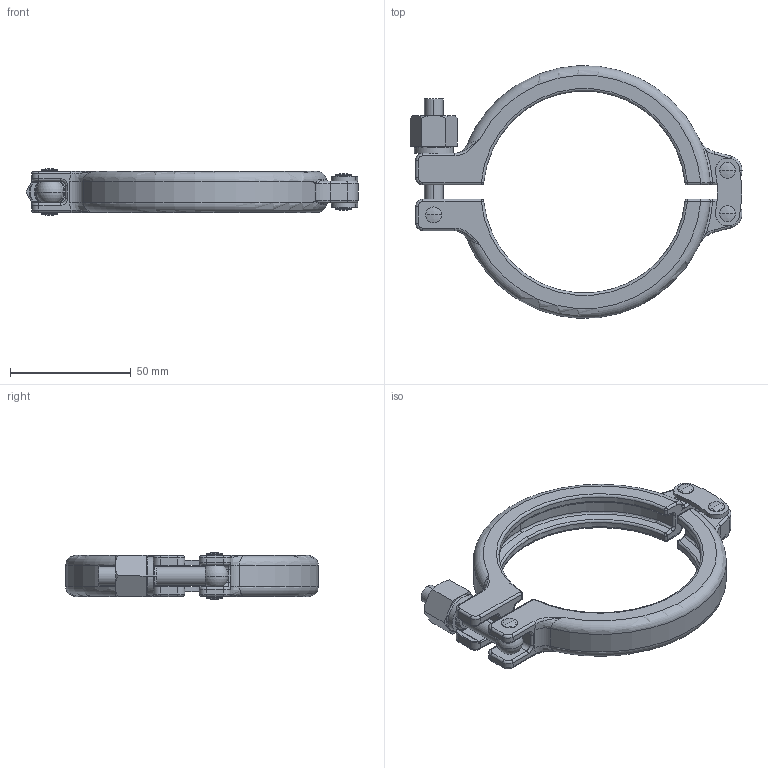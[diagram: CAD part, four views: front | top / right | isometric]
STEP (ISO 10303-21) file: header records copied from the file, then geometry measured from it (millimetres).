
FILE_DESCRIPTION (( 'STEP AP214' ), '1' );
FILE_NAME ('CL.SHX.0300 BLOCK.STEP', '2019-04-03T13:50:48', ( '' ), ( '' ), 'SwSTEP 2.0', 'SolidWorks 2019', '' );
FILE_SCHEMA (( 'AUTOMOTIVE_DESIGN' ));
Length unit declared in the file: millimetre
Products named in the file (1): CL.SHX.0300 BLOCK
Bounding box: 137.43 x 104.6 x 19.3 mm (x, y, z)
Volume: 53311.3 mm3; surface area: 24142.1 mm2
Topology: 3 solids, 3 shells, 396 faces, 929 edges, 526 vertices
Faces by surface type: cylinder 150, torus 77, plane 64, bspline 46, sphere 38, cone 21
Entity records: 13422 total; most frequent: CARTESIAN_POINT 4479, DIRECTION 2011, ORIENTED_EDGE 1808, EDGE_CURVE 904, AXIS2_PLACEMENT_3D 872, VERTEX_POINT 525, CIRCLE 521, EDGE_LOOP 421
